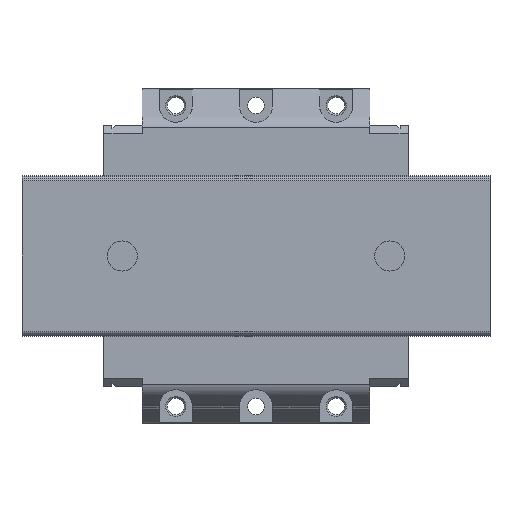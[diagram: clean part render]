
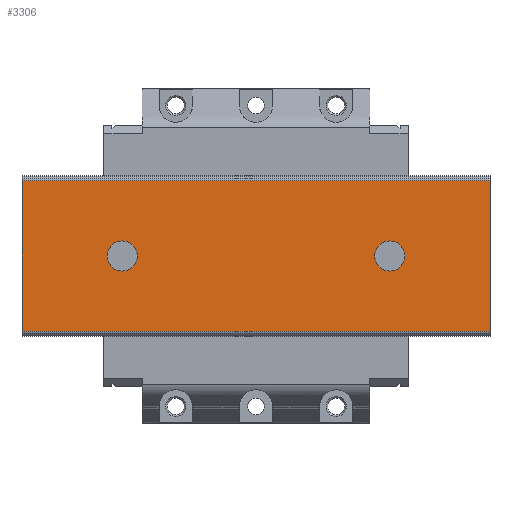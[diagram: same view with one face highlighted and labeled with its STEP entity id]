
A CAD part, front view. The second image highlights one B-rep face of the part: STEP entity #3306.
In plain terms, the highlighted planar face has unit normal (0, -1, 0).
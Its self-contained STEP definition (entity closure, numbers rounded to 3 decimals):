
#95=CIRCLE('',#3529,2.25);
#96=CIRCLE('',#3530,2.25);
#335=ORIENTED_EDGE('',*,*,#1313,.F.);
#336=ORIENTED_EDGE('',*,*,#1314,.F.);
#337=ORIENTED_EDGE('',*,*,#1315,.T.);
#338=ORIENTED_EDGE('',*,*,#1316,.F.);
#339=ORIENTED_EDGE('',*,*,#1317,.F.);
#340=ORIENTED_EDGE('',*,*,#1311,.T.);
#1311=EDGE_CURVE('',#1796,#1795,#2134,.T.);
#1313=EDGE_CURVE('',#1797,#1797,#95,.T.);
#1314=EDGE_CURVE('',#1798,#1798,#96,.T.);
#1315=EDGE_CURVE('',#1795,#1799,#2135,.T.);
#1316=EDGE_CURVE('',#1800,#1799,#2136,.T.);
#1317=EDGE_CURVE('',#1796,#1800,#2137,.T.);
#1795=VERTEX_POINT('',#4924);
#1796=VERTEX_POINT('',#4926);
#1797=VERTEX_POINT('',#4930);
#1798=VERTEX_POINT('',#4932);
#1799=VERTEX_POINT('',#4934);
#1800=VERTEX_POINT('',#4936);
#2134=LINE('',#4925,#2450);
#2135=LINE('',#4933,#2451);
#2136=LINE('',#4935,#2452);
#2137=LINE('',#4937,#2453);
#2450=VECTOR('',#3917,1000.);
#2451=VECTOR('',#3926,1000.);
#2452=VECTOR('',#3927,1000.);
#2453=VECTOR('',#3928,1000.);
#2756=EDGE_LOOP('',(#335));
#2757=EDGE_LOOP('',(#336));
#2758=EDGE_LOOP('',(#337,#338,#339,#340));
#2978=FACE_BOUND('',#2756,.T.);
#2979=FACE_BOUND('',#2757,.T.);
#2980=FACE_BOUND('',#2758,.T.);
#3194=PLANE('',#3528);
#3306=ADVANCED_FACE('',(#2978,#2979,#2980),#3194,.F.);
#3528=AXIS2_PLACEMENT_3D('',#4928,#3920,#3921);
#3529=AXIS2_PLACEMENT_3D('',#4929,#3922,#3923);
#3530=AXIS2_PLACEMENT_3D('',#4931,#3924,#3925);
#3917=DIRECTION('',(-1.,0.,0.));
#3920=DIRECTION('',(0.,1.,0.));
#3921=DIRECTION('',(0.,0.,1.));
#3922=DIRECTION('',(0.,-1.,0.));
#3923=DIRECTION('',(0.,0.,-1.));
#3924=DIRECTION('',(0.,-1.,0.));
#3925=DIRECTION('',(0.,0.,-1.));
#3926=DIRECTION('',(0.,0.,-1.));
#3927=DIRECTION('',(-1.,0.,0.));
#3928=DIRECTION('',(0.,0.,-1.));
#4924=CARTESIAN_POINT('',(-15.,0.,11.256));
#4925=CARTESIAN_POINT('',(55.,0.,11.256));
#4926=CARTESIAN_POINT('',(55.,0.,11.256));
#4928=CARTESIAN_POINT('',(55.,0.,11.256));
#4929=CARTESIAN_POINT('',(40.,0.,0.));
#4930=CARTESIAN_POINT('',(40.,0.,-2.25));
#4931=CARTESIAN_POINT('',(0.,0.,0.));
#4932=CARTESIAN_POINT('',(0.,0.,-2.25));
#4933=CARTESIAN_POINT('',(-15.,0.,11.256));
#4934=CARTESIAN_POINT('',(-15.,0.,-11.256));
#4935=CARTESIAN_POINT('',(55.,0.,-11.256));
#4936=CARTESIAN_POINT('',(55.,0.,-11.256));
#4937=CARTESIAN_POINT('',(55.,0.,11.256));
